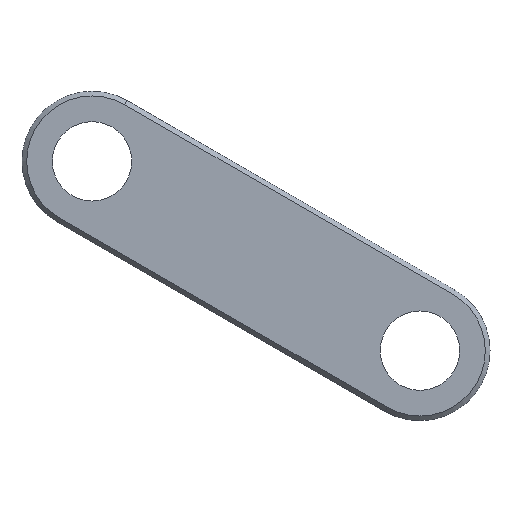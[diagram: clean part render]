
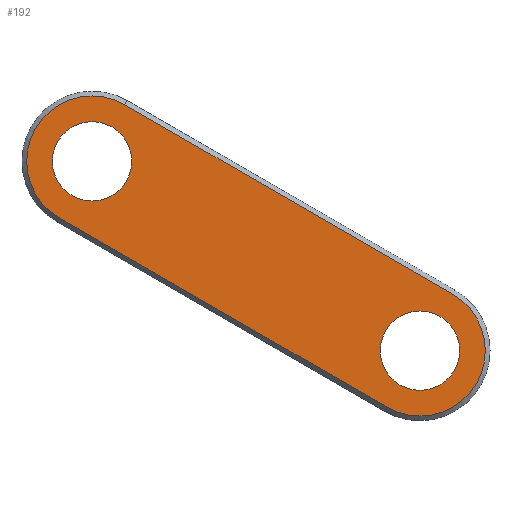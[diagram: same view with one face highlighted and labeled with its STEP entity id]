
A CAD part, left-side view. The second image highlights one B-rep face of the part: STEP entity #192.
In plain terms, the highlighted planar face has unit normal (-1, 0, 0).
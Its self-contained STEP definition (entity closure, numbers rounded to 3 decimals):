
#54=AXIS2_PLACEMENT_3D('Circle Axis2P3D',#52,#53,$) ;
#78=AXIS2_PLACEMENT_3D('Circle Axis2P3D',#76,#77,$) ;
#111=AXIS2_PLACEMENT_3D('Circle Axis2P3D',#109,#110,$) ;
#135=AXIS2_PLACEMENT_3D('Circle Axis2P3D',#133,#134,$) ;
#148=AXIS2_PLACEMENT_3D('Plane Axis2P3D',#145,#146,#147) ;
#152=AXIS2_PLACEMENT_3D('Circle Axis2P3D',#150,#151,$) ;
#168=AXIS2_PLACEMENT_3D('Circle Axis2P3D',#166,#167,$) ;
#49=CARTESIAN_POINT('Vertex',(33099.1,1727.717,2234.78)) ;
#52=CARTESIAN_POINT('Axis2P3D Location',(33099.1,1719.217,2234.78)) ;
#56=CARTESIAN_POINT('Vertex',(33099.1,1710.717,2234.78)) ;
#76=CARTESIAN_POINT('Axis2P3D Location',(33099.1,1719.217,2234.78)) ;
#106=CARTESIAN_POINT('Vertex',(33099.1,1797.919,2275.311)) ;
#109=CARTESIAN_POINT('Axis2P3D Location',(33099.1,1789.419,2275.311)) ;
#113=CARTESIAN_POINT('Vertex',(33099.1,1780.919,2275.311)) ;
#133=CARTESIAN_POINT('Axis2P3D Location',(33099.1,1789.419,2275.311)) ;
#145=CARTESIAN_POINT('Axis2P3D Location',(33099.1,1719.217,2234.78)) ;
#150=CARTESIAN_POINT('Axis2P3D Location',(33099.1,1789.419,2275.311)) ;
#154=CARTESIAN_POINT('Vertex',(33099.1,1796.419,2263.187)) ;
#156=CARTESIAN_POINT('Vertex',(33099.1,1782.419,2287.436)) ;
#159=CARTESIAN_POINT('Line Origine',(33099.1,1761.318,2242.921)) ;
#163=CARTESIAN_POINT('Vertex',(33099.1,1726.217,2222.656)) ;
#166=CARTESIAN_POINT('Axis2P3D Location',(33099.1,1719.217,2234.78)) ;
#170=CARTESIAN_POINT('Vertex',(33099.1,1712.217,2246.905)) ;
#173=CARTESIAN_POINT('Line Origine',(33099.1,1747.318,2267.17)) ;
#53=DIRECTION('Axis2P3D Direction',(1.,-0.,0.)) ;
#77=DIRECTION('Axis2P3D Direction',(1.,-0.,0.)) ;
#110=DIRECTION('Axis2P3D Direction',(1.,-0.,0.)) ;
#134=DIRECTION('Axis2P3D Direction',(1.,-0.,0.)) ;
#146=DIRECTION('Axis2P3D Direction',(1.,0.,0.)) ;
#147=DIRECTION('Axis2P3D XDirection',(0.,1.,0.)) ;
#151=DIRECTION('Axis2P3D Direction',(1.,0.,0.)) ;
#160=DIRECTION('Vector Direction',(0.,-0.866,-0.5)) ;
#167=DIRECTION('Axis2P3D Direction',(1.,0.,0.)) ;
#174=DIRECTION('Vector Direction',(0.,0.866,0.5)) ;
#161=VECTOR('Line Direction',#160,1.) ;
#175=VECTOR('Line Direction',#174,1.) ;
#179=ORIENTED_EDGE('',*,*,#158,.F.) ;
#180=ORIENTED_EDGE('',*,*,#165,.F.) ;
#181=ORIENTED_EDGE('',*,*,#172,.F.) ;
#182=ORIENTED_EDGE('',*,*,#177,.F.) ;
#185=ORIENTED_EDGE('',*,*,#80,.T.) ;
#186=ORIENTED_EDGE('',*,*,#58,.T.) ;
#189=ORIENTED_EDGE('',*,*,#137,.T.) ;
#190=ORIENTED_EDGE('',*,*,#115,.T.) ;
#187=FACE_BOUND('',#184,.T.) ;
#191=FACE_BOUND('',#188,.T.) ;
#192=ADVANCED_FACE('V.9626.7522.810.051-05 - \X2\041704320435043D043E\X0\',(#183,#187,#191),#149,.F.) ;
#55=CIRCLE('generated circle',#54,8.5) ;
#79=CIRCLE('generated circle',#78,8.5) ;
#112=CIRCLE('generated circle',#111,8.5) ;
#136=CIRCLE('generated circle',#135,8.5) ;
#153=CIRCLE('generated circle',#152,14.) ;
#169=CIRCLE('generated circle',#168,14.) ;
#58=EDGE_CURVE('',#57,#50,#55,.T.) ;
#80=EDGE_CURVE('',#50,#57,#79,.T.) ;
#115=EDGE_CURVE('',#114,#107,#112,.T.) ;
#137=EDGE_CURVE('',#107,#114,#136,.T.) ;
#158=EDGE_CURVE('',#155,#157,#153,.T.) ;
#165=EDGE_CURVE('',#164,#155,#162,.F.) ;
#172=EDGE_CURVE('',#171,#164,#169,.T.) ;
#177=EDGE_CURVE('',#157,#171,#176,.F.) ;
#178=EDGE_LOOP('',(#179,#180,#181,#182)) ;
#184=EDGE_LOOP('',(#185,#186)) ;
#188=EDGE_LOOP('',(#189,#190)) ;
#183=FACE_OUTER_BOUND('',#178,.T.) ;
#162=LINE('Line',#159,#161) ;
#176=LINE('Line',#173,#175) ;
#149=PLANE('',#148) ;
#50=VERTEX_POINT('',#49) ;
#57=VERTEX_POINT('',#56) ;
#107=VERTEX_POINT('',#106) ;
#114=VERTEX_POINT('',#113) ;
#155=VERTEX_POINT('',#154) ;
#157=VERTEX_POINT('',#156) ;
#164=VERTEX_POINT('',#163) ;
#171=VERTEX_POINT('',#170) ;
